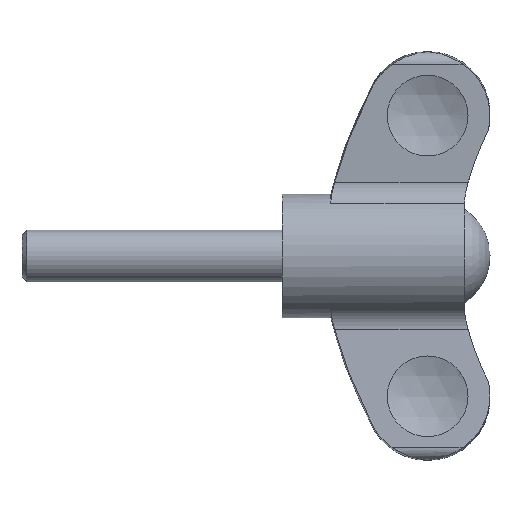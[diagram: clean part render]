
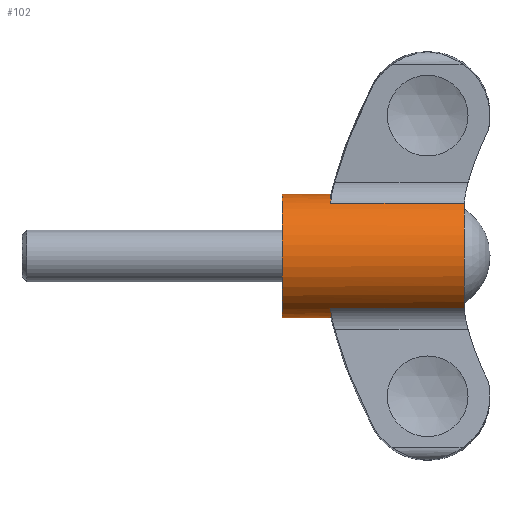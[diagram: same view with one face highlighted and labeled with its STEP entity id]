
A CAD part, top view. The second image highlights one B-rep face of the part: STEP entity #102.
In plain terms, the highlighted cylindrical face has radius 9.5 mm (diameter 19 mm), a full revolution.
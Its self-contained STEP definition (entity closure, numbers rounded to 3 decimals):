
#102 = ADVANCED_FACE( '', ( #168, #169 ), #170, .T. );
#168 = FACE_OUTER_BOUND( '', #313, .T. );
#169 = FACE_OUTER_BOUND( '', #314, .T. );
#170 = CYLINDRICAL_SURFACE( '', #315, 9.5 );
#313 = EDGE_LOOP( '', ( #504, #505, #506, #507, #508, #509, #510, #511 ) );
#314 = EDGE_LOOP( '', ( #512 ) );
#315 = AXIS2_PLACEMENT_3D( '', #513, #514, #515 );
#504 = ORIENTED_EDGE( '', *, *, #522, .F. );
#505 = ORIENTED_EDGE( '', *, *, #544, .F. );
#506 = ORIENTED_EDGE( '', *, *, #567, .F. );
#507 = ORIENTED_EDGE( '', *, *, #574, .T. );
#508 = ORIENTED_EDGE( '', *, *, #548, .F. );
#509 = ORIENTED_EDGE( '', *, *, #558, .F. );
#510 = ORIENTED_EDGE( '', *, *, #564, .F. );
#511 = ORIENTED_EDGE( '', *, *, #516, .T. );
#512 = ORIENTED_EDGE( '', *, *, #578, .T. );
#513 = CARTESIAN_POINT( '', ( 32., 0., 0. ) );
#514 = DIRECTION( '', ( -1., 0., 0. ) );
#515 = DIRECTION( '', ( 0., 0., -1. ) );
#516 = EDGE_CURVE( '', #579, #580, #581, .T. );
#522 = EDGE_CURVE( '', #590, #580, #592, .T. );
#544 = EDGE_CURVE( '', #630, #590, #632, .T. );
#548 = EDGE_CURVE( '', #639, #640, #641, .T. );
#558 = EDGE_CURVE( '', #654, #639, #656, .T. );
#564 = EDGE_CURVE( '', #579, #654, #664, .T. );
#567 = EDGE_CURVE( '', #666, #630, #668, .T. );
#574 = EDGE_CURVE( '', #666, #640, #678, .T. );
#578 = EDGE_CURVE( '', #685, #685, #686, .T. );
#579 = VERTEX_POINT( '', #687 );
#580 = VERTEX_POINT( '', #688 );
#581 = LINE( '', #689, #690 );
#590 = VERTEX_POINT( '', #733 );
#592 = CIRCLE( '', #746, 9.5 );
#630 = VERTEX_POINT( '', #909 );
#632 = LINE( '', #922, #923 );
#639 = VERTEX_POINT( '', #959 );
#640 = VERTEX_POINT( '', #960 );
#641 = CIRCLE( '', #961, 9.5 );
#654 = VERTEX_POINT( '', #1034 );
#656 = LINE( '', #1047, #1048 );
#664 = CIRCLE( '', #1056, 9.5 );
#666 = VERTEX_POINT( '', #1058 );
#668 = CIRCLE( '', #1073, 9.5 );
#678 = LINE( '', #1137, #1138 );
#685 = VERTEX_POINT( '', #1145 );
#686 = CIRCLE( '', #1146, 9.5 );
#687 = CARTESIAN_POINT( '', ( 28.058, 8.079, 4.997 ) );
#688 = CARTESIAN_POINT( '', ( 7.499, 8.079, 4.997 ) );
#689 = CARTESIAN_POINT( '', ( 32., 8.079, 4.997 ) );
#690 = VECTOR( '', #1147, 1000. );
#733 = CARTESIAN_POINT( '', ( 7.499, 8.079, -4.997 ) );
#746 = AXIS2_PLACEMENT_3D( '', #1149, #1150, #1151 );
#909 = CARTESIAN_POINT( '', ( 28.058, 8.079, -4.997 ) );
#922 = CARTESIAN_POINT( '', ( 32., 8.079, -4.997 ) );
#923 = VECTOR( '', #1172, 1000. );
#959 = CARTESIAN_POINT( '', ( 7.499, -8.079, 4.997 ) );
#960 = CARTESIAN_POINT( '', ( 7.499, -8.079, -4.997 ) );
#961 = AXIS2_PLACEMENT_3D( '', #1174, #1175, #1176 );
#1034 = CARTESIAN_POINT( '', ( 28.058, -8.079, 4.997 ) );
#1047 = CARTESIAN_POINT( '', ( 32., -8.079, 4.997 ) );
#1048 = VECTOR( '', #1184, 1000. );
#1056 = AXIS2_PLACEMENT_3D( '', #1197, #1198, #1199 );
#1058 = CARTESIAN_POINT( '', ( 28.058, -8.079, -4.997 ) );
#1073 = AXIS2_PLACEMENT_3D( '', #1203, #1204, #1205 );
#1137 = CARTESIAN_POINT( '', ( 32., -8.079, -4.997 ) );
#1138 = VECTOR( '', #1212, 1000. );
#1145 = CARTESIAN_POINT( '', ( 0., 0., -9.5 ) );
#1146 = AXIS2_PLACEMENT_3D( '', #1222, #1223, #1224 );
#1147 = DIRECTION( '', ( -1., 0., 0. ) );
#1149 = CARTESIAN_POINT( '', ( 7.499, 0., 0. ) );
#1150 = DIRECTION( '', ( 1., 0., 0. ) );
#1151 = DIRECTION( '', ( 0., 0., -1. ) );
#1172 = DIRECTION( '', ( -1., 0., 0. ) );
#1174 = CARTESIAN_POINT( '', ( 7.499, 0., 0. ) );
#1175 = DIRECTION( '', ( 1., 0., 0. ) );
#1176 = DIRECTION( '', ( 0., 0., -1. ) );
#1184 = DIRECTION( '', ( -1., 0., 0. ) );
#1197 = CARTESIAN_POINT( '', ( 28.058, 0., 0. ) );
#1198 = DIRECTION( '', ( 1., 0., 0. ) );
#1199 = DIRECTION( '', ( 0., 0., -1. ) );
#1203 = CARTESIAN_POINT( '', ( 28.058, 0., 0. ) );
#1204 = DIRECTION( '', ( 1., 0., 0. ) );
#1205 = DIRECTION( '', ( 0., 0., -1. ) );
#1212 = DIRECTION( '', ( -1., 0., 0. ) );
#1222 = CARTESIAN_POINT( '', ( 0., 0., 0. ) );
#1223 = DIRECTION( '', ( 1., 0., 0. ) );
#1224 = DIRECTION( '', ( 0., 0., -1. ) );
